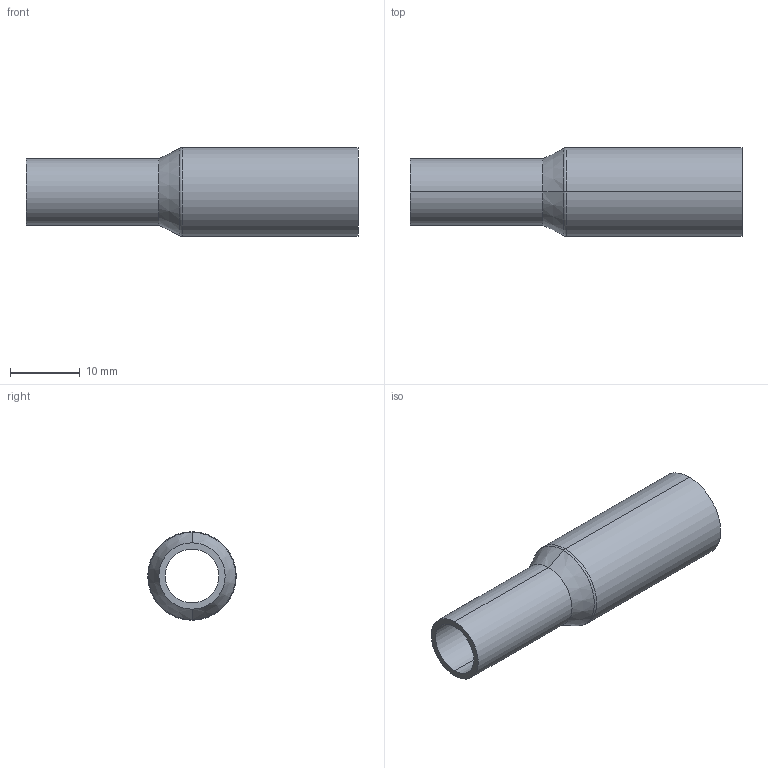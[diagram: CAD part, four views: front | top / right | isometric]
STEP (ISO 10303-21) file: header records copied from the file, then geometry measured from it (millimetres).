
FILE_DESCRIPTION (( 'STEP AP214' ), '1' );
FILE_NAME ('TE31SWW6L.5x.375-...STEP', '2016-05-29T09:27:03', ( 'eran' ), ( '' ), 'SwSTEP 2.0', 'SolidWorks 2016', '' );
FILE_SCHEMA (( 'AUTOMOTIVE_DESIGN' ));
Length unit declared in the file: millimetre
Products named in the file (1): TE31SWW6L.5x.375-..
Bounding box: 47.62 x 12.7 x 12.7 mm (x, y, z)
Volume: 2394.9 mm3; surface area: 3007.8 mm2
Topology: 1 solids, 1 shells, 18 faces, 36 edges, 20 vertices
Faces by surface type: cylinder 8, torus 4, cone 4, plane 2
Entity records: 506 total; most frequent: DIRECTION 98, CARTESIAN_POINT 75, ORIENTED_EDGE 72, AXIS2_PLACEMENT_3D 43, EDGE_CURVE 36, CIRCLE 24, VERTEX_POINT 20, EDGE_LOOP 20
